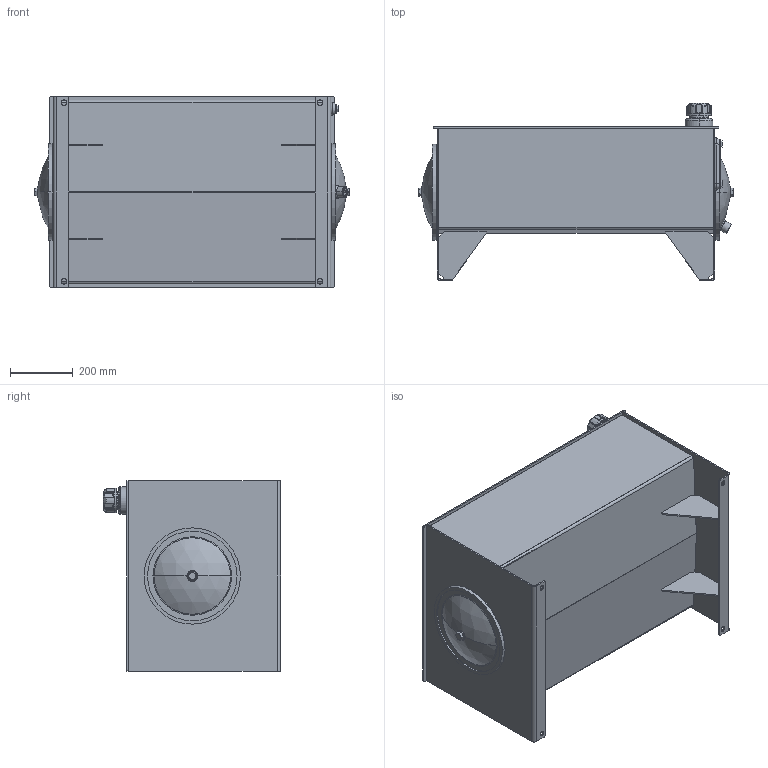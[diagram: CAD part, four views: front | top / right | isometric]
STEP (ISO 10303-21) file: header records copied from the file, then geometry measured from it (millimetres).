
FILE_DESCRIPTION (( 'STEP AP203' ), '1' );
FILE_NAME ('RJIC030-FT.STEP', '2015-01-07T16:44:12', ( '' ), ( '' ), 'SwSTEP 2.0', 'SolidWorks 2014', '' );
FILE_SCHEMA (( 'CONFIG_CONTROL_DESIGN' ));
Length unit declared in the file: inch
Products named in the file (1): RJIC030-FT
Bounding box: 1010.19 x 567.05 x 609.6 mm (x, y, z)
Volume: 10638758.4 mm3; surface area: 5718611.3 mm2
Topology: 23 solids, 23 shells, 725 faces, 1701 edges, 1025 vertices
Faces by surface type: cylinder 252, plane 246, cone 84, torus 60, bspline 51, sphere 32
Entity records: 23724 total; most frequent: CARTESIAN_POINT 6906, DIRECTION 3672, ORIENTED_EDGE 3378, EDGE_CURVE 1689, AXIS2_PLACEMENT_3D 1461, VERTEX_POINT 1025, EDGE_LOOP 820, CIRCLE 786
